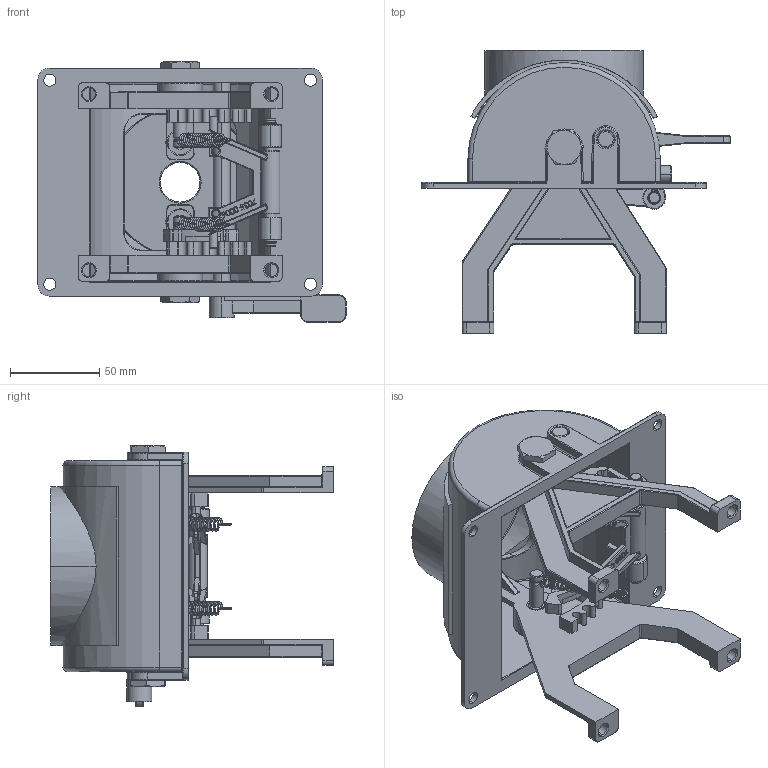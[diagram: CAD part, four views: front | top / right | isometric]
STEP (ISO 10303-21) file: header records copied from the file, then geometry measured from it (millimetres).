
FILE_DESCRIPTION (( 'STEP AP214' ), '1' );
FILE_NAME ('7035-TA.STEP', '2019-12-04T16:11:59', ( '' ), ( '' ), 'SwSTEP 2.0', 'SolidWorks 2019', '' );
FILE_SCHEMA (( 'AUTOMOTIVE_DESIGN' ));
Length unit declared in the file: inch
Products named in the file (1): 7035-TA
Bounding box: 172.67 x 158.5 x 145.99 mm (x, y, z)
Surface area: 168031.6 mm2 (no closed solid volume)
Topology: 0 solids, 34 shells, 896 faces, 2653 edges, 1745 vertices
Faces by surface type: cylinder 390, plane 246, torus 121, cone 98, bspline 39, sphere 2
Entity records: 54392 total; most frequent: CARTESIAN_POINT 19691, DIRECTION 4861, ORIENTED_EDGE 4548, EDGE_CURVE 2648, AXIS2_PLACEMENT_3D 1859, VERTEX_POINT 1745, VECTOR 1143, LINE 1143
